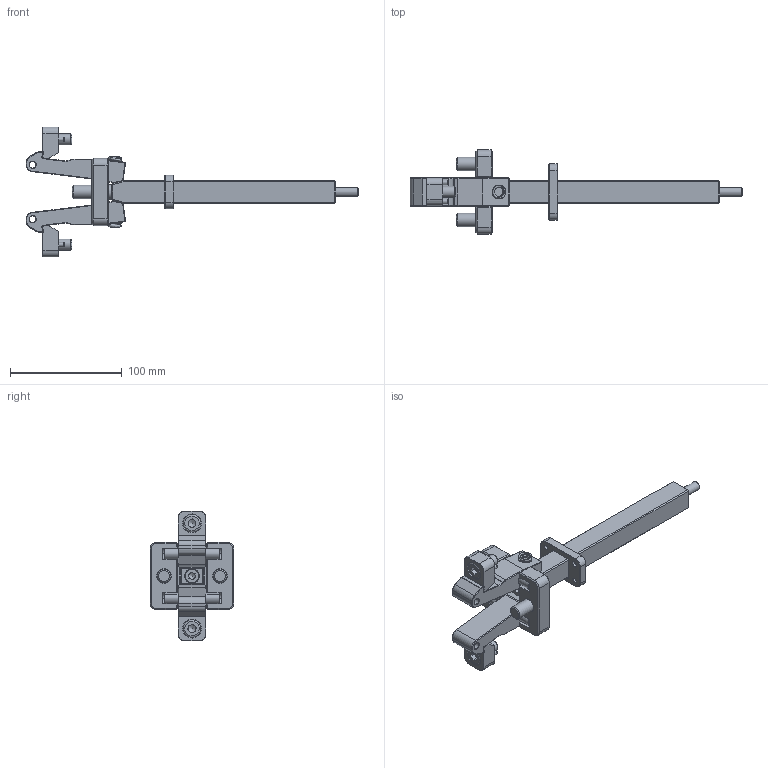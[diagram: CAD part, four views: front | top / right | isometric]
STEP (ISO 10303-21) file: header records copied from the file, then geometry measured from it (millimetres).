
FILE_DESCRIPTION (( 'STEP AP214' ), '1' );
FILE_NAME ('DT10K2.STEP', '2024-02-26T13:49:50', ( '' ), ( '' ), 'SwSTEP 2.0', 'SolidWorks 2023', '' );
FILE_SCHEMA (( 'AUTOMOTIVE_DESIGN' ));
Length unit declared in the file: millimetre
Products named in the file (12): DT10L; DT10_PIASTRINA GP; DT10_PERNO QUADRO; M10x20RIB; DT10K2; DT10_SPINA 10x50; VITE M8x220; M12x25RIB; DT10 MOLLA; Parallel Pin ISO 8734 - 4 x 10 - A - St_Parallel Pin ISO 8734 - 4 x 10 - A - St; DT10PS; DT10TI
Assembly tree (21 placements, depth 2):
  DT10K2
    DT10L  x2
    DT10_SPINA 10x50  x2
    DT10 MOLLA  x2
    DT10PS  x2
    DT10TI  x2
    Parallel Pin ISO 8734 - 4 x 10 - A - St_Parallel Pin ISO 8734 - 4 x 10 - A - St  x4
    M10x20RIB  x2
    M12x25RIB  x2
    DT10_PIASTRINA GP
    DT10_PERNO QUADRO
    VITE M8x220
Bounding box: 296.52 x 75 x 116 mm (x, y, z)
Volume: 216034 mm3; surface area: 81459.6 mm2
Topology: 21 solids, 21 shells, 565 faces, 1263 edges, 749 vertices
Faces by surface type: plane 315, cone 129, cylinder 108, torus 9, bspline 4
Full cylindrical faces by diameter (mm): 3.6 x2, 4 x10, 5.2 x2, 5.9 x2, 7 x2, 8 x3, 8.2 x1, 9 x2, 10 x3, 10.04 x2, 10.2 x2, 12 x4, 12.5 x2, 13 x1, 16 x2, 16.2 x2, 18 x2, 18.5 x2
Entity records: 10755 total; most frequent: CARTESIAN_POINT 3149, DIRECTION 1568, ORIENTED_EDGE 1332, EDGE_CURVE 666, AXIS2_PLACEMENT_3D 564, LINE 440, VECTOR 440, EDGE_LOOP 434
